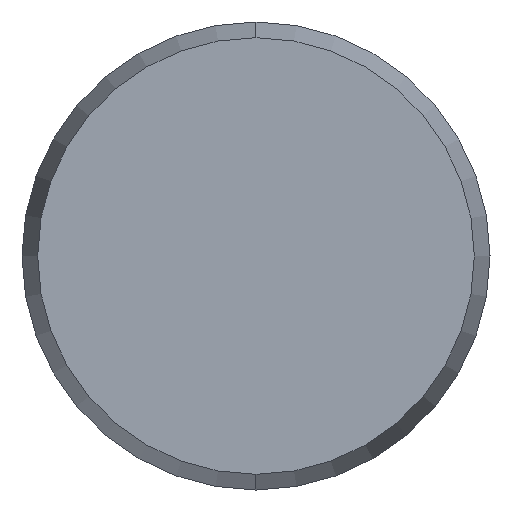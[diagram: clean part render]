
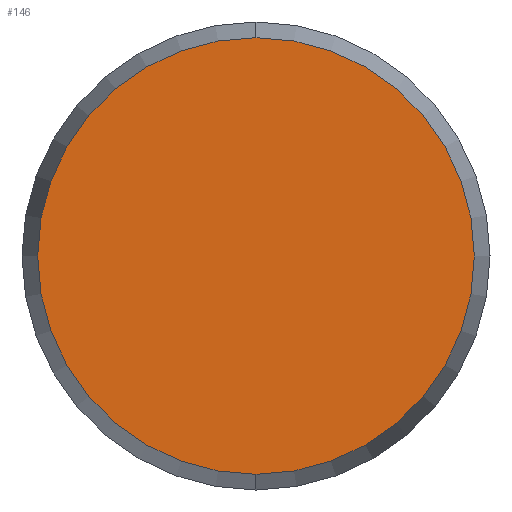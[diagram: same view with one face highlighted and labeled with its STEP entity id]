
A CAD part, left-side view. The second image highlights one B-rep face of the part: STEP entity #146.
In plain terms, the highlighted planar face has unit normal (-1, 0, 0).
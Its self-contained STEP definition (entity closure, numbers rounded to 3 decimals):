
#82 = EDGE_CURVE ( 'NONE', #84, #85, #151, .T. ) ;
#84 = VERTEX_POINT ( 'NONE', #150 ) ;
#85 = VERTEX_POINT ( 'NONE', #157 ) ;
#140 = ORIENTED_EDGE ( 'NONE', *, *, #82, .F. ) ;
#142 = ORIENTED_EDGE ( 'NONE', *, *, #143, .F. ) ;
#143 = EDGE_CURVE ( 'NONE', #85, #84, #176, .T. ) ;
#144 = EDGE_LOOP ( 'NONE', ( #140, #142 ) ) ;
#146 = ADVANCED_FACE ( 'NONE', ( #187 ), #173, .F. ) ;
#150 = CARTESIAN_POINT ( 'NONE',  ( -25., 0., 7.464 ) ) ;
#151 = CIRCLE ( 'NONE', #165, 7.464 ) ;
#156 = DIRECTION ( 'NONE',  ( 1., 0., 0. ) ) ;
#157 = CARTESIAN_POINT ( 'NONE',  ( -25., 0., -7.464 ) ) ;
#159 = CARTESIAN_POINT ( 'NONE',  ( -25., 0., 0. ) ) ;
#165 = AXIS2_PLACEMENT_3D ( 'NONE', #159, #156, #166 ) ;
#166 = DIRECTION ( 'NONE',  ( 0., 0., -1. ) ) ;
#172 = CARTESIAN_POINT ( 'NONE',  ( -25., 0., 0. ) ) ;
#173 = PLANE ( 'NONE',  #184 ) ;
#176 = CIRCLE ( 'NONE', #188, 7.464 ) ;
#177 = DIRECTION ( 'NONE',  ( 0., 0., -1. ) ) ;
#178 = DIRECTION ( 'NONE',  ( 0., 0., -1. ) ) ;
#179 = CARTESIAN_POINT ( 'NONE',  ( -25., 0., 0. ) ) ;
#184 = AXIS2_PLACEMENT_3D ( 'NONE', #179, #186, #178 ) ;
#186 = DIRECTION ( 'NONE',  ( 1., 0., 0. ) ) ;
#187 = FACE_OUTER_BOUND ( 'NONE', #144, .T. ) ;
#188 = AXIS2_PLACEMENT_3D ( 'NONE', #172, #189, #177 ) ;
#189 = DIRECTION ( 'NONE',  ( 1., 0., 0. ) ) ;
